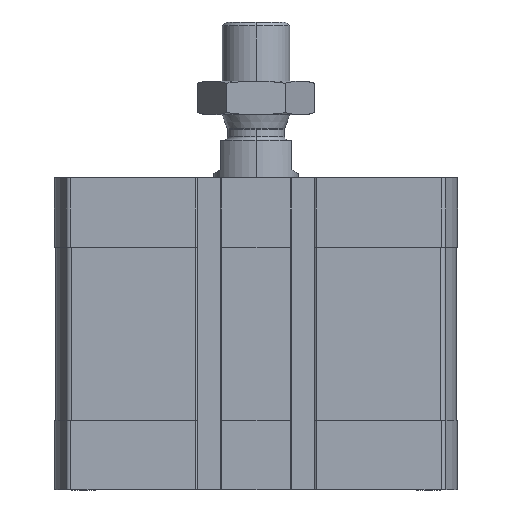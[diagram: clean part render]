
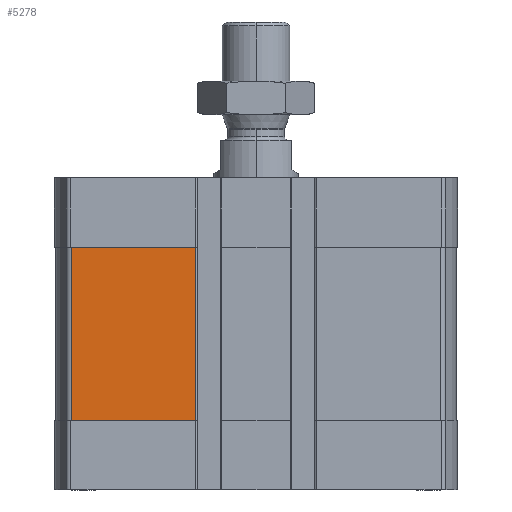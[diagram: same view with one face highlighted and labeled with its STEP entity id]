
A CAD part, left-side view. The second image highlights one B-rep face of the part: STEP entity #5278.
In plain terms, the highlighted planar face has unit normal (-1, 0, 0).
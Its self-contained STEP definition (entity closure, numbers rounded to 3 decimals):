
#336 = ORIENTED_EDGE ( 'NONE', *, *, #10948, .T. ) ;
#583 = ORIENTED_EDGE ( 'NONE', *, *, #8050, .T. ) ;
#818 = LINE ( 'NONE', #1447, #883 ) ;
#883 = VECTOR ( 'NONE', #1259, 1000. ) ;
#1013 = VERTEX_POINT ( 'NONE', #12040 ) ;
#1259 = DIRECTION ( 'NONE',  ( 0., -1., 0. ) ) ;
#1447 = CARTESIAN_POINT ( 'NONE',  ( -47.5, 43.743, -57.5 ) ) ;
#1688 = EDGE_CURVE ( 'NONE', #5456, #1013, #12946, .T. ) ;
#2888 = CARTESIAN_POINT ( 'NONE',  ( -47.5, 43.743, -57.5 ) ) ;
#3794 = CARTESIAN_POINT ( 'NONE',  ( -47.5, 0., -16.5 ) ) ;
#4598 = DIRECTION ( 'NONE',  ( 0., 0., -1. ) ) ;
#4621 = DIRECTION ( 'NONE',  ( 0., 1., 0. ) ) ;
#4719 = CARTESIAN_POINT ( 'NONE',  ( -47.5, 43.743, -57.5 ) ) ;
#5062 = DIRECTION ( 'NONE',  ( 0., 0., 1. ) ) ;
#5278 = ADVANCED_FACE ( 'NONE', ( #10358 ), #10635, .T. ) ;
#5440 = VECTOR ( 'NONE', #5062, 1000. ) ;
#5456 = VERTEX_POINT ( 'NONE', #14922 ) ;
#5633 = CARTESIAN_POINT ( 'NONE',  ( -47.5, 14.3, -57.5 ) ) ;
#5812 = VERTEX_POINT ( 'NONE', #15751 ) ;
#7416 = EDGE_CURVE ( 'NONE', #1013, #8124, #14550, .T. ) ;
#7977 = LINE ( 'NONE', #5633, #5440 ) ;
#8050 = EDGE_CURVE ( 'NONE', #5812, #5456, #7977, .T. ) ;
#8124 = VERTEX_POINT ( 'NONE', #2888 ) ;
#9895 = DIRECTION ( 'NONE',  ( 0., 0., 1. ) ) ;
#10100 = DIRECTION ( 'NONE',  ( -1., 0., 0. ) ) ;
#10213 = EDGE_LOOP ( 'NONE', ( #336, #583, #14756, #12786 ) ) ;
#10358 = FACE_OUTER_BOUND ( 'NONE', #10213, .T. ) ;
#10635 = PLANE ( 'NONE',  #12389 ) ;
#10948 = EDGE_CURVE ( 'NONE', #8124, #5812, #818, .T. ) ;
#11410 = CARTESIAN_POINT ( 'NONE',  ( -47.5, 43.743, -57.5 ) ) ;
#12040 = CARTESIAN_POINT ( 'NONE',  ( -47.5, 43.743, -16.5 ) ) ;
#12389 = AXIS2_PLACEMENT_3D ( 'NONE', #11410, #10100, #9895 ) ;
#12766 = VECTOR ( 'NONE', #4621, 1000. ) ;
#12786 = ORIENTED_EDGE ( 'NONE', *, *, #7416, .T. ) ;
#12946 = LINE ( 'NONE', #3794, #12766 ) ;
#14550 = LINE ( 'NONE', #4719, #15101 ) ;
#14756 = ORIENTED_EDGE ( 'NONE', *, *, #1688, .T. ) ;
#14922 = CARTESIAN_POINT ( 'NONE',  ( -47.5, 14.3, -16.5 ) ) ;
#15101 = VECTOR ( 'NONE', #4598, 1000. ) ;
#15751 = CARTESIAN_POINT ( 'NONE',  ( -47.5, 14.3, -57.5 ) ) ;
